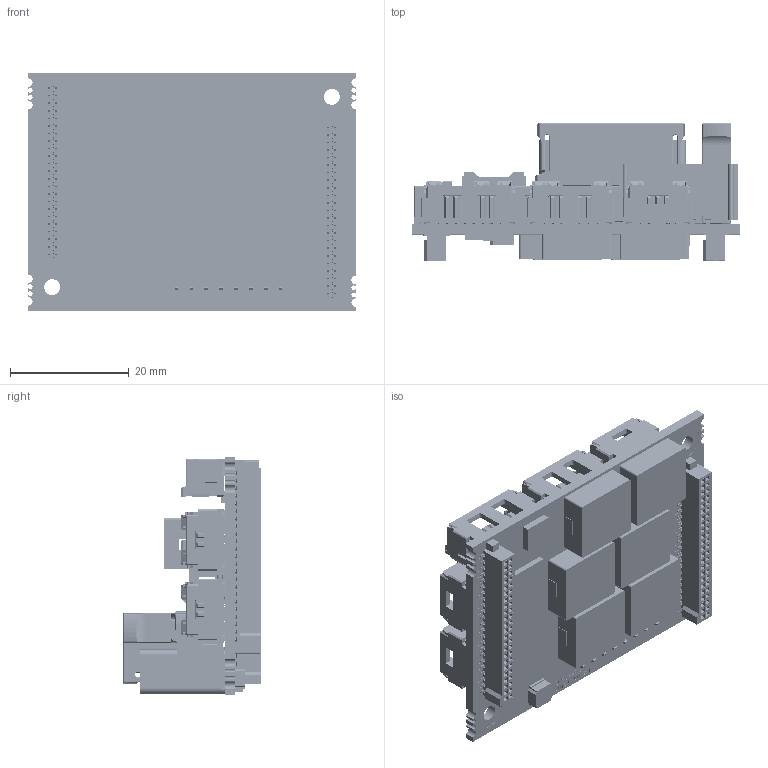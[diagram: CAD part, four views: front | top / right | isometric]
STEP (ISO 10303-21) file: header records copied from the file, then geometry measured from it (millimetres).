
FILE_DESCRIPTION((''),'2;1');
FILE_NAME('EPOS4_CB_24_X_ASM','2016-11-09T',('mmagrari'),(''),'CREO PARAMETRIC BY PTC INC, 2016050','CREO PARAMETRIC BY PTC INC, 2016050','');
FILE_SCHEMA(('CONFIG_CONTROL_DESIGN'));
Products named in the file (74): EPOS4_CB_24_X_PCB; EPOS4_CB_24_X_PCB_SITO; EPOS4_CB_24_X_PCB_SIBO; 5031541090; 3M_N2510-6V0C-RB; 5025840570; 5025840470; 5025840770; 5025840870; DIP_SWITCH_2P_8; USER_LIBRARY-FUSE_NANO2; CHOKE_11_8-10_5-4_2; IC_7X7X1; IC_TSSOP-16; HARTING_HAR-FLEXICON_2_54_MSV-3; HARTING_HAR-FLEXICON_2_54_FPV-3; HARTING_HAR-FLEXICON_2_54-3_ASM; HARTING_HAR-FLEXICON_2_54_MSV-8; HARTING_HAR-FLEXICON_2_54_FPV-8; HARTING_HAR-FLEXICON_2_54-8_ASM; DF3D-3P-2V-70490; J2_HALL_SENSOR_HEADER; 877590664; CUT-EXTRUDE11_45_; CUT-EXTRUDE11_11_; CUT-EXTRUDE11_46_; CUT-EXTRUDE11_12_; CUT-EXTRUDE11_13_; CUT-EXTRUDE11_3_; CUT-EXTRUDE11_16_; CUT-EXTRUDE11_17_; CUT-EXTRUDE11_24_; CUT-EXTRUDE11_15_; CUT-EXTRUDE11_14_; CUT-EXTRUDE11_25_; COMBINE2; CUT-EXTRUDE11_9_; CUT-EXTRUDE11_23_; CUT-EXTRUDE11_20_; CUT-EXTRUDE11_19_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
Assembly tree (81 placements, depth 4):
  EPOS4_CB_24_X_ASM
    EPOS4_CB_24_X_PCB
    EPOS4_CB_24_X_PCB_SITO
    EPOS4_CB_24_X_PCB_SIBO
    5031541090
    3M_N2510-6V0C-RB
    5025840570
    5025840470  x2
    5025840770
    5025840870  x2
    DIP_SWITCH_2P_8
    USER_LIBRARY-FUSE_NANO2
    CHOKE_11_8-10_5-4_2  x6
    IC_7X7X1
    IC_TSSOP-16
    HARTING_HAR-FLEXICON_2_54-3_ASM
      HARTING_HAR-FLEXICON_2_54_MSV-3
      HARTING_HAR-FLEXICON_2_54_FPV-3
    HARTING_HAR-FLEXICON_2_54-8_ASM
      HARTING_HAR-FLEXICON_2_54_MSV-8
      HARTING_HAR-FLEXICON_2_54_FPV-8
    DF3D-3P-2V-70490
    J2_HALL_SENSOR_HEADER
    877590664
    SFH31-_____B-D23-SP_ASM  x2
      11165__SFH31-NP_B-D23-SP-____ASM
        CUT-EXTRUDE11_45_
        CUT-EXTRUDE11_11_
        CUT-EXTRUDE11_46_
        CUT-EXTRUDE11_12_
        CUT-EXTRUDE11_13_
        CUT-EXTRUDE11_3_
        CUT-EXTRUDE11_16_
        CUT-EXTRUDE11_17_
        CUT-EXTRUDE11_24_
        CUT-EXTRUDE11_15_
        CUT-EXTRUDE11_14_
        CUT-EXTRUDE11_25_
        COMBINE2
        CUT-EXTRUDE11_9_
        CUT-EXTRUDE11_23_
        CUT-EXTRUDE11_20_
        CUT-EXTRUDE11_19_
        CUT-EXTRUDE11_26_
        CUT-EXTRUDE11_21_
        CUT-EXTRUDE11_27_
        CUT-EXTRUDE11_22_
        CUT-EXTRUDE11_28_
        CUT-EXTRUDE11_6_
        CUT-EXTRUDE11_29_
        CUT-EXTRUDE11_2_
        CUT-EXTRUDE11_30_
        CUT-EXTRUDE11_31_
        CUT-EXTRUDE11_32_
        CUT-EXTRUDE11_1_
        CUT-EXTRUDE11_4_
        CUT-EXTRUDE11_33_
        CUT-EXTRUDE11_8_
        CUT-EXTRUDE11_34_
        CUT-EXTRUDE11_5_
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Bounding box: 55 x 23.15 x 40 mm (x, y, z)
Volume: 13076.6 mm3; surface area: 34492.5 mm2
Topology: 152 solids, 154 shells, 21868 faces, 61716 edges, 40161 vertices
Faces by surface type: plane 16550, cylinder 4449, torus 572, bspline 190, cone 95, sphere 8, extrusion 4
Entity records: 645800 total; most frequent: CARTESIAN_POINT 101530, ORIENTED_EDGE 87622, DIRECTION 79233, PRESENTATION_STYLE_ASSIGNMENT 44350, EDGE_CURVE 43814, STYLED_ITEM 43557, CURVE_STYLE 43238, VECTOR 36839
